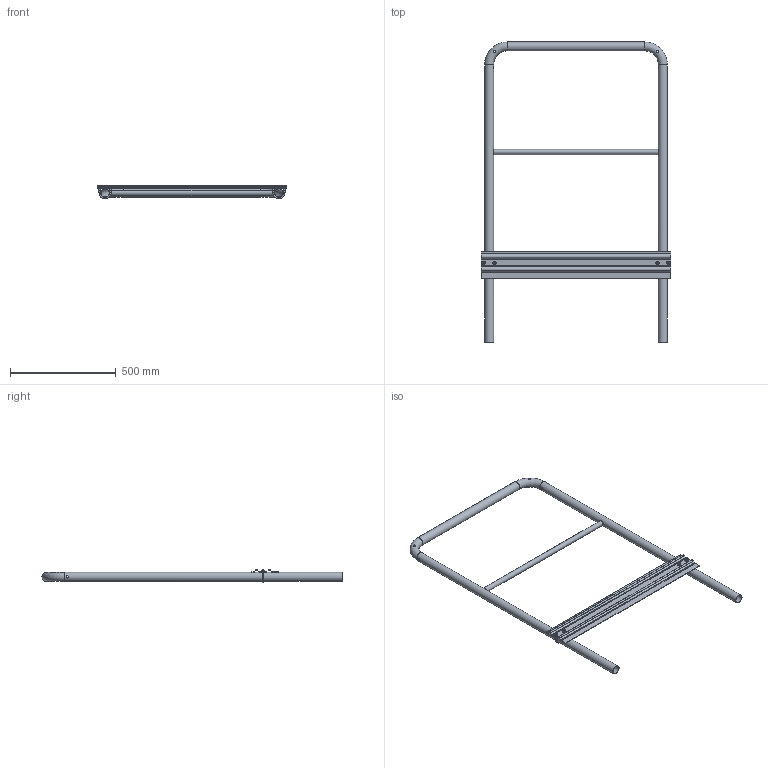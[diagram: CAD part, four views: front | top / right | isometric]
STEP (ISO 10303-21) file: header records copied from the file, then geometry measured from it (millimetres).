
FILE_DESCRIPTION((''),'2;1');
FILE_NAME('S:\Användarkataloger\AndreasA\Mina Inventor filer\Räcken\STEP\modul_ind_slist_900-1400.stp','2010-09-07T13:19:24',('AndreasA'),(''),'Autodesk Inventor 2011','Autodesk Inventor 2011','');
FILE_SCHEMA(('AUTOMOTIVE_DESIGN { 1 0 10303 214 1 1 1 1 }'));
Length unit declared in the file: millimetre
Products named in the file (9): modul_ind_slist_900-1400; modul_ind_900-1400; handledare_modul_900-1400; mellanliggare_modul_900; sparklist_k130_modul_900; bygelskruv_U42_kpl; bygelskruv_U42; SS 3576 8; ISO 4032 M8
Assembly tree (11 placements, depth 3):
  modul_ind_slist_900-1400
    modul_ind_900-1400
      handledare_modul_900-1400
      mellanliggare_modul_900
    sparklist_k130_modul_900
    bygelskruv_U42_kpl  x2
      bygelskruv_U42
      SS 3576 8
      ISO 4032 M8
Bounding box: 896 x 1421.2 x 65 mm (x, y, z)
Volume: 1355177.9 mm3; surface area: 1291436.9 mm2
Topology: 13 solids, 13 shells, 148 faces, 350 edges, 224 vertices
Faces by surface type: plane 66, cylinder 52, cone 24, torus 6
Full cylindrical faces by diameter (mm): 6.647 x4, 7 x4, 8 x4, 8.4 x4, 10 x4, 11 x8, 16 x4, 21 x1, 25 x1, 38.4 x3, 42.4 x3
Entity records: 3275 total; most frequent: CARTESIAN_POINT 1136, DIRECTION 414, ORIENTED_EDGE 324, AXIS2_PLACEMENT_3D 174, EDGE_CURVE 162, EDGE_LOOP 158, VERTEX_POINT 128, FACE_OUTER_BOUND 86
